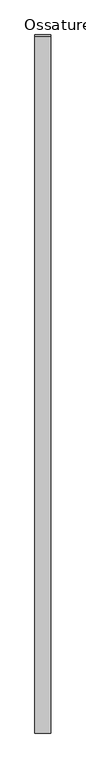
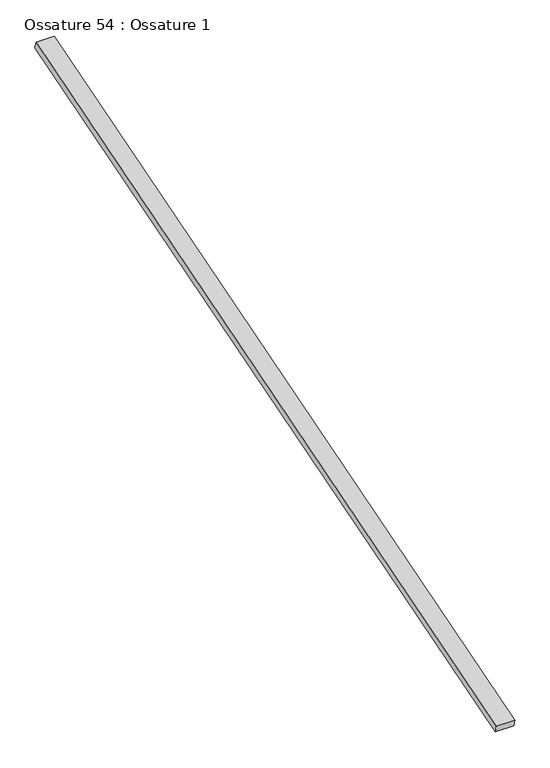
"""IFC4 building model written with IfcOpenShell, lengths in millimetres: beam geometry, Ossature 54 : Ossature 1."""

from ifc_helpers import new_model, si_unit, frame, origin, place, context, project, spatial, polyline, outline, extrude, source, transform, mapped, element, save


def ossature_54_ossature_1_0d9284a0(model_context):
    return source(origin(), model_context, "Body", "SweptSolid", [
        extrude(outline(polyline([(0.0, 0.0), (0.0, -4543.0299679), (-100.0, -4543.0299679), (-100.0, 0.0), (0.0, 0.0)])), frame((13156.8466393, -833.3913565, 8153.6336115), z_axis=(0.0, -0.28734788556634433, 0.9578262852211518), x_axis=(-1.0, 0.0, 0.0)), (0.0, 0.0, 1.0), 40.0),
    ])


if __name__ == "__main__":
    model = new_model("IFC4")
    model_context = context("Model", 3, world=origin())
    ifc_project = project(units=[si_unit("LENGTHUNIT", "METRE", prefix="MILLI")], contexts=[model_context])
    site = spatial("IfcSite", under=ifc_project)
    building = spatial("IfcBuilding", under=site)
    placement = place(None, origin())
    ossature_54_ossature_1_shape = ossature_54_ossature_1_0d9284a0(model_context)
    element("IfcBeam", 1, ObjectType="Ossature 54 : Ossature 1", at=placement, inside=building, context=model_context, shape_type="MappedRepresentation", body=[
        mapped(ossature_54_ossature_1_shape, transform((0.0, 0.0, 0.0), x_axis=(1.0, 0.0, 0.0), y_axis=(0.0, 1.0, 0.0), z_axis=(0.0, 0.0, 1.0))),
    ])
    save(model, "model.ifc")
